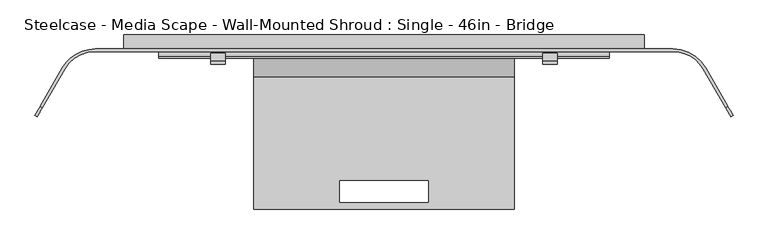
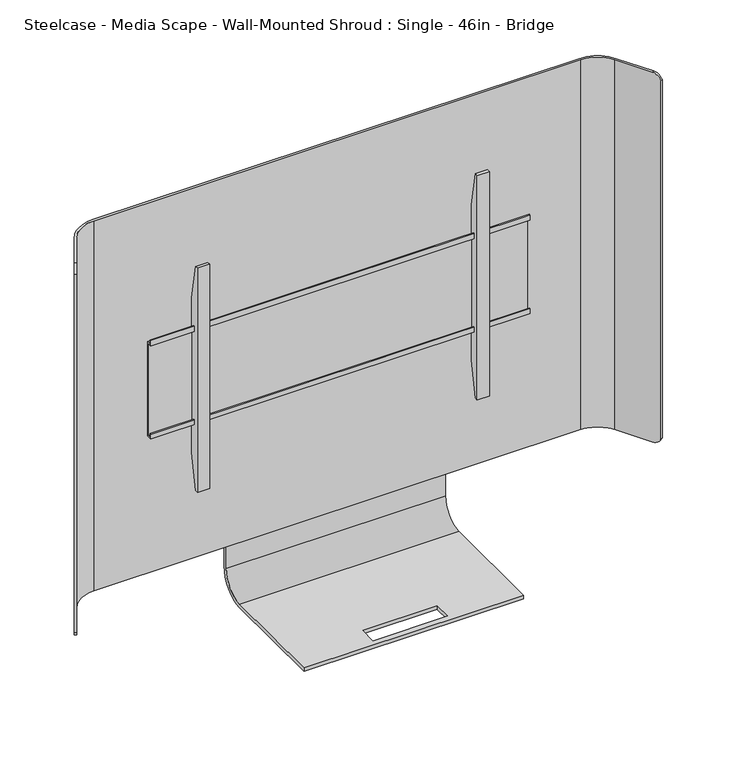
"""IFC4 building model written with IfcOpenShell, lengths in millimetres: furniture geometry, Steelcase - Media Scape - Wall-Mounted Shroud : Single - 46in - Bridge."""

from ifc_helpers import new_model, si_unit, frame, origin, place, context, project, spatial, polyline, circle_curve, outline, extrude, source, transform, mapped, element, save
from ifc_brep_helpers import plane_surface, cylinder_surface, revolved_surface, advanced_brep


def steelcase_media_scape_wall_mounted_shroud_single_46in_bridge_72783157(model_context):
    return source(origin(), model_context, "Body", "SolidModel", [
        advanced_brep(
        [(234.9499879, -25.4, 783.5646188), (234.9499879, -75.8697585, 733.0948603), (234.9499879, -314.3253876, 733.0948603), (234.9499879, -314.3253876, 725.1446188), (234.9499879, -75.8696132, 725.1446188), (234.9499879, -17.4496132, 783.5646188), (234.9499879, -17.4496132, 1158.5447876), (234.9499879, -25.4, 1158.5447876), (-234.9499879, -25.4, 783.5646188), (-234.9499879, -25.4, 1158.5447876), (-234.9499879, -17.4496132, 1158.5447876), (-234.9499879, -17.4496132, 783.5646188), (-234.9499879, -75.8696132, 725.1446188), (-234.9499879, -314.3253876, 725.1446188), (-234.9499879, -314.3253876, 733.0948603), (-234.9499879, -75.8697585, 733.0948603), (-79.502, -263.5253876, 733.0948603), (79.502, -263.5253876, 733.0948603), (79.502, -301.6253876, 733.0948603), (-79.502, -301.6253876, 733.0948603), (79.502, -263.5253876, 725.1446188), (-79.502, -263.5253876, 725.1446188), (-79.502, -301.6253876, 725.1446188), (79.502, -301.6253876, 725.1446188)],
        [
            (0, 1, circle_curve(frame((234.9499879, -75.8697585, 783.5646188), z_axis=(-1.0, 0.0, 0.0), x_axis=(0.0, 1.0, 0.0)), 50.4697585)),
            (1, 2),
            (2, 3),
            (3, 4),
            (4, 5, circle_curve(frame((234.9499879, -75.8696132, 783.5646188), z_axis=(1.0, 0.0, 0.0), x_axis=(0.0, 1.0, 0.0)), 58.42)),
            (5, 6),
            (6, 7),
            (7, 0),
            (8, 9),
            (9, 10),
            (10, 11),
            (11, 12, circle_curve(frame((-234.9499879, -75.8696132, 783.5646188), z_axis=(-1.0, 0.0, 0.0), x_axis=(0.0, 1.0, 0.0)), 58.42)),
            (12, 13),
            (13, 14),
            (14, 15),
            (15, 8, circle_curve(frame((-234.9499879, -75.8697585, 783.5646188), z_axis=(1.0, 0.0, 0.0), x_axis=(0.0, 1.0, 0.0)), 50.4697585)),
            (1, 15),
            (14, 2),
            (16, 17),
            (17, 18),
            (18, 19),
            (19, 16),
            (13, 3),
            (12, 4),
            (20, 21),
            (21, 22),
            (22, 23),
            (23, 20),
            (5, 11),
            (10, 6),
            (9, 7),
            (8, 0),
            (20, 17),
            (16, 21),
            (19, 22),
            (18, 23),
        ],
        [
            plane_surface(frame((234.9499879, -25.4, 783.5646188), z_axis=(1.0, 0.0, 0.0), x_axis=(0.0, 0.0, -1.0))),
            plane_surface(frame((-234.9499879, -25.4, 783.5646188), z_axis=(-1.0, 0.0, 0.0), x_axis=(0.0, 0.0, 1.0))),
            plane_surface(frame((234.9499879, -75.8697585, 733.0948603), z_axis=(0.0, 0.0, 1.0), x_axis=(-1.0, 0.0, 0.0))),
            plane_surface(frame((234.9499879, -314.3253876, 733.0948603), z_axis=(0.0, -1.0, 0.0), x_axis=(-1.0, 0.0, 0.0))),
            plane_surface(frame((234.9499879, -314.3253876, 725.1446188), z_axis=(0.0, 0.0, -1.0), x_axis=(-1.0, 0.0, 0.0))),
            plane_surface(frame((234.9499879, -17.4496132, 783.5646188), z_axis=(0.0, 1.0, 0.0), x_axis=(-1.0, 0.0, 0.0))),
            plane_surface(frame((234.9499879, -17.4496132, 1158.5447876), z_axis=(0.0, 0.0, 1.0), x_axis=(-1.0, 0.0, 0.0))),
            plane_surface(frame((234.9499879, -25.4, 1158.5447876), z_axis=(0.0, -1.0, 0.0), x_axis=(-1.0, 0.0, 0.0))),
            revolved_surface(polyline([(-234.9499879, -25.400000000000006, 783.5646188), (234.9499879, -25.400000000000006, 783.5646188)]), (-234.9499879, -75.8697585, 783.5646188), (-1.0, 0.0, 0.0)),
            cylinder_surface(frame((-234.9499879, -75.8696132, 783.5646188), z_axis=(1.0, 0.0, 0.0), x_axis=(0.0, 1.0, 0.0)), 58.42),
            plane_surface(frame((79.502, -263.5253876, 1824.7300588), z_axis=(0.0, -1.0, 0.0), x_axis=(0.0, 0.0, -1.0))),
            plane_surface(frame((-79.502, -263.5253876, 1824.7300588), z_axis=(1.0, 0.0, 0.0), x_axis=(0.0, 0.0, -1.0))),
            plane_surface(frame((-79.502, -301.6253876, 1824.7300588), z_axis=(0.0, 1.0, 0.0), x_axis=(0.0, 0.0, -1.0))),
            plane_surface(frame((79.502, -301.6253876, 1824.7300588), z_axis=(-1.0, 0.0, 0.0), x_axis=(0.0, 0.0, -1.0))),
        ],
        [
            (0, [[1, 2, 3, 4, 5, 6, 7, 8]]),
            (1, [[9, 10, 11, 12, 13, 14, 15, 16]]),
            (2, [[-2, 17, -15, 18], [19, 20, 21, 22]]),
            (3, [[-3, -18, -14, 23]]),
            (4, [[-4, -23, -13, 24], [25, 26, 27, 28]]),
            (5, [[-6, 29, -11, 30]]),
            (6, [[-7, -30, -10, 31]]),
            (7, [[-8, -31, -9, 32]]),
            (8, [[-1, -32, -16, -17]]),
            (9, [[-5, -24, -12, -29]]),
            (10, [[33, -19, 34, -25]]),
            (11, [[-34, -22, 35, -26]]),
            (12, [[-35, -21, 36, -27]]),
            (13, [[-33, -28, -36, -20]]),
        ],
    ),
        extrude(outline(polyline([(-42.4942785, 1358.3004726), (-42.4942785, 1370.3145649), (-39.8272175, 1370.3145649), (-39.8272175, 1360.967461), (-29.9720009, 1360.967461), (-29.9720009, 1146.6422438), (-42.3164551, 1146.6422438), (-42.3164551, 1157.5642515), (-39.649394, 1157.5642515), (-39.649394, 1149.307052), (-32.6531824, 1149.307052), (-32.6531824, 1358.3004726), (-42.4942785, 1358.3004726)])), frame((-406.4, 0.0, 0.0), z_axis=(1.0, 0.0, 0.0), x_axis=(0.0, 1.0, 0.0)), (0.0, 0.0, 1.0), 812.8),
        extrude(outline(polyline([(-32.6531824, 1429.2471148), (-32.6531824, 1077.4325607), (-46.5049349, 999.8046949), (-53.3399828, 999.8046949), (-53.3399828, 1507.8047192), (-46.5050076, 1507.8047192), (-32.6531824, 1429.2471148)])), frame((286.6392868, 0.0, 0.0), z_axis=(1.0, 0.0, 0.0), x_axis=(0.0, 1.0, 0.0)), (0.0, 0.0, 1.0), 26.1592872),
        extrude(outline(polyline([(-32.6531824, 1429.2471148), (-32.6531824, 1077.4325607), (-46.5049349, 999.8046949), (-53.3399828, 999.8046949), (-53.3399828, 1507.8047192), (-46.5050076, 1507.8047192), (-32.6531824, 1429.2471148)])), frame((-312.798574, 0.0, 0.0), z_axis=(1.0, 0.0, 0.0), x_axis=(0.0, 1.0, 0.0)), (0.0, 0.0, 1.0), 26.1592872),
        advanced_brep(
        [(-576.7086135, -61.722, 1674.114), (-521.716002, -29.9720009, 1674.114), (521.716, -29.9720009, 1674.114), (576.7086135, -61.722, 1674.114), (616.829586, -131.2135628, 1674.114), (620.7890541, -128.9275628, 1674.114), (580.6680817, -59.436, 1674.114), (521.716002, -25.4, 1674.114), (-521.716, -25.4, 1674.114), (-580.6680817, -59.436, 1674.114), (-620.7921659, -128.9329524, 1674.114), (-616.8326977, -131.2189524, 1674.114), (-580.6680817, -59.436, 835.914), (-521.716002, -25.4, 835.914), (521.716, -25.4, 835.914), (580.6680817, -59.436, 835.914), (620.8406629, -129.0169518, 835.914), (616.8811948, -131.3029518, 835.914), (576.7086135, -61.722, 835.914), (521.716002, -29.9720009, 835.914), (-521.716, -29.9720009, 835.914), (-576.7086135, -61.722, 835.914), (-616.8954014, -131.3275584, 835.914), (-620.8548695, -129.0415584, 835.914), (-630.3590632, -145.5033047, 849.5242766), (-630.3590632, -145.5033047, 1660.1227735), (-626.3995951, -147.7893047, 1660.1227735), (-626.3995951, -147.7893047, 849.5242766), (626.3770866, -147.7503189, 849.4756893), (626.3770866, -147.7503189, 1660.2433849), (630.3365547, -145.4643189, 1660.2433849), (630.3365547, -145.4643189, 849.4756893)],
        [
            (0, 1, circle_curve(frame((-521.716002, -93.4719991, 1674.114), z_axis=(0.0, 0.0, -1.0), x_axis=(0.0, 1.0, 0.0)), 63.4999981)),
            (1, 2),
            (2, 3, circle_curve(frame((521.716002, -93.4719991, 1674.114), z_axis=(0.0, 0.0, -1.0), x_axis=(0.0, 1.0, 0.0)), 63.4999981)),
            (3, 4),
            (4, 5),
            (5, 6),
            (6, 7, circle_curve(frame((521.7160004, -93.472, 1674.114), z_axis=(0.0, 0.0, 1.0), x_axis=(0.0, 1.0, 0.0)), 68.072)),
            (7, 8),
            (8, 9, circle_curve(frame((-521.7160004, -93.472, 1674.114), z_axis=(0.0, 0.0, 1.0), x_axis=(0.0, 1.0, 0.0)), 68.072)),
            (9, 10),
            (10, 11),
            (11, 0),
            (12, 13, circle_curve(frame((-521.7160004, -93.472, 835.914), z_axis=(0.0, 0.0, -1.0), x_axis=(0.0, 1.0, 0.0)), 68.072)),
            (13, 14),
            (14, 15, circle_curve(frame((521.7160004, -93.472, 835.914), z_axis=(0.0, 0.0, -1.0), x_axis=(0.0, 1.0, 0.0)), 68.072)),
            (15, 16),
            (16, 17),
            (17, 18),
            (18, 19, circle_curve(frame((521.716002, -93.4719991, 835.914), z_axis=(0.0, 0.0, 1.0), x_axis=(0.0, 1.0, 0.0)), 63.4999981)),
            (19, 20),
            (20, 21, circle_curve(frame((-521.716002, -93.4719991, 835.914), z_axis=(0.0, 0.0, 1.0), x_axis=(0.0, 1.0, 0.0)), 63.4999981)),
            (21, 22),
            (22, 23),
            (23, 12),
            (0, 21),
            (20, 1),
            (8, 13),
            (12, 9),
            (23, 24, circle_curve(frame((-620.8548695, -129.0415584, 855.9928872), z_axis=(-0.8660254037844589, 0.4999999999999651, 0.0), x_axis=(-0.4999999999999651, -0.8660254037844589, 0.0)), 20.0788872)),
            (24, 25),
            (25, 10, circle_curve(frame((-620.7921659, -128.9329524, 1654.0351128), z_axis=(-0.8660254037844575, 0.4999999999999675, 0.0), x_axis=(-0.4999999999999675, -0.8660254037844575, 0.0)), 20.0788872)),
            (26, 25),
            (24, 27),
            (27, 26),
            (11, 26, circle_curve(frame((-616.8326977, -131.2189524, 1654.0351128), z_axis=(0.8660254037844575, -0.4999999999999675, 0.0), x_axis=(-0.4999999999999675, -0.8660254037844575, 0.0)), 20.0788872)),
            (27, 22, circle_curve(frame((-616.8954014, -131.3275584, 855.9928872), z_axis=(0.8660254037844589, -0.4999999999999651, 0.0), x_axis=(-0.4999999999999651, -0.8660254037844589, 0.0)), 20.0788872)),
            (7, 14),
            (19, 2),
            (3, 18),
            (17, 28, circle_curve(frame((616.8811948, -131.3029518, 855.9928872), z_axis=(-0.8660254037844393, -0.49999999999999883, 0.0), x_axis=(0.49999999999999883, -0.8660254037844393, 0.0)), 20.0788872)),
            (28, 29),
            (29, 4, circle_curve(frame((616.829586, -131.2135628, 1654.0351128), z_axis=(-0.8660254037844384, -0.5000000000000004, 0.0), x_axis=(0.5000000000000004, -0.8660254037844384, 0.0)), 20.0788872)),
            (30, 29),
            (28, 31),
            (31, 30),
            (15, 6),
            (5, 30, circle_curve(frame((620.7890541, -128.9275628, 1654.0351128), z_axis=(0.8660254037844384, 0.5000000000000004, 0.0), x_axis=(0.5000000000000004, -0.8660254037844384, 0.0)), 20.0788872)),
            (31, 16, circle_curve(frame((620.8406629, -129.0169518, 855.9928872), z_axis=(0.8660254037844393, 0.49999999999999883, 0.0), x_axis=(0.49999999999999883, -0.8660254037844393, 0.0)), 20.0788872)),
        ],
        [
            plane_surface(frame((-521.716002, -29.9720009, 1674.114), z_axis=(0.0, 0.0, 1.0), x_axis=(1.0, 0.0, 0.0))),
            plane_surface(frame((-521.716002, -29.9720009, 835.914), z_axis=(0.0, 0.0, -1.0), x_axis=(-1.0, 0.0, 0.0))),
            revolved_surface(polyline([(-521.716002, -29.972001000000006, 835.914), (-521.716002, -29.972001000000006, 1674.114)]), (-521.716002, -93.4719991, 835.914), (0.0, 0.0, -1.0)),
            cylinder_surface(frame((-521.7160004, -93.472, 835.914), z_axis=(0.0, 0.0, 1.0), x_axis=(0.0, 1.0, 0.0)), 68.072),
            plane_surface(frame((-580.6680817, -59.436, 1674.114), z_axis=(-0.8660254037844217, 0.5000000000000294, 0.0), x_axis=(0.0, 0.0, -1.0))),
            plane_surface(frame((-630.3590632, -145.5033047, 1674.114), z_axis=(-0.5000000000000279, -0.8660254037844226, 0.0), x_axis=(0.0, 0.0, -1.0))),
            plane_surface(frame((-626.3995951, -147.7893047, 1674.114), z_axis=(0.8660254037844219, -0.500000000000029, 0.0), x_axis=(0.0, 0.0, -1.0))),
            plane_surface(frame((521.716, -25.4, 1674.114), z_axis=(0.0, 1.0, 0.0), x_axis=(0.0, 0.0, -1.0))),
            plane_surface(frame((-521.716, -29.9720009, 1674.114), z_axis=(0.0, -1.0, 0.0), x_axis=(0.0, 0.0, -1.0))),
            plane_surface(frame((576.7086135, -61.722, 1674.114), z_axis=(-0.8660254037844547, -0.4999999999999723, 0.0), x_axis=(0.0, 0.0, -1.0))),
            plane_surface(frame((626.3770866, -147.7503189, 1674.114), z_axis=(0.4999999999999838, -0.866025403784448, 0.0), x_axis=(0.0, 0.0, -1.0))),
            plane_surface(frame((630.3365547, -145.4643189, 1674.114), z_axis=(0.8660254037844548, 0.49999999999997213, 0.0), x_axis=(0.0, 0.0, -1.0))),
            cylinder_surface(frame((521.7160004, -93.472, 835.914), z_axis=(0.0, 0.0, 1.0), x_axis=(0.0, 1.0, 0.0)), 68.072),
            revolved_surface(polyline([(521.716002, -29.972001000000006, 835.914), (521.716002, -29.972001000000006, 1674.114)]), (521.716002, -93.4719991, 835.914), (0.0, 0.0, -1.0)),
            cylinder_surface(frame((-616.8326977, -131.2189524, 1654.0351128), z_axis=(0.8660254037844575, -0.4999999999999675, 0.0), x_axis=(-0.4999999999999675, -0.8660254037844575, 0.0)), 20.0788872),
            cylinder_surface(frame((-616.8954014, -131.3275584, 855.9928872), z_axis=(0.8660254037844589, -0.4999999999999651, 0.0), x_axis=(-0.4999999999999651, -0.8660254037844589, 0.0)), 20.0788872),
            cylinder_surface(frame((631.9364297, -122.4916225, 1654.0351128), z_axis=(0.8660254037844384, 0.5000000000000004, 0.0), x_axis=(0.5000000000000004, -0.8660254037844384, 0.0)), 20.0788872),
            cylinder_surface(frame((629.1289695, -124.2316958, 855.9928872), z_axis=(0.8660254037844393, 0.49999999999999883, 0.0), x_axis=(0.49999999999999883, -0.8660254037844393, 0.0)), 20.0788872),
        ],
        [
            (0, [[1, 2, 3, 4, 5, 6, 7, 8, 9, 10, 11, 12]]),
            (1, [[13, 14, 15, 16, 17, 18, 19, 20, 21, 22, 23, 24]]),
            (2, [[-1, 25, -21, 26]]),
            (3, [[-9, 27, -13, 28]]),
            (4, [[-28, -24, 29, 30, 31, -10]]),
            (5, [[32, -30, 33, 34]]),
            (6, [[-25, -12, 35, -34, 36, -22]]),
            (7, [[-8, 37, -14, -27]]),
            (8, [[-2, -26, -20, 38]]),
            (9, [[39, -18, 40, 41, 42, -4]]),
            (10, [[43, -41, 44, 45]]),
            (11, [[46, -6, 47, -45, 48, -16]]),
            (12, [[-7, -46, -15, -37]]),
            (13, [[-3, -38, -19, -39]]),
            (14, [[-11, -31, -32, -35]]),
            (15, [[-23, -36, -33, -29]]),
            (16, [[-5, -42, -43, -47]]),
            (17, [[-17, -48, -44, -40]]),
        ],
    ),
        extrude(outline(polyline([(912.1648167, 406.3999879), (912.1648167, 469.9), (1597.914, 469.9), (1597.914, -469.9), (912.1648167, -469.9), (912.1648167, -407.3933465), (1534.4139516, -407.3933465), (1534.4139516, 406.3999879), (912.1648167, 406.3999879)])), frame((0.0, -25.4, 0.0), z_axis=(0.0, 1.0, 0.0), x_axis=(0.0, 0.0, 1.0)), (0.0, 0.0, 1.0), 25.4),
    ])


if __name__ == "__main__":
    model = new_model("IFC4")
    model_context = context("Model", 3, world=origin())
    ifc_project = project(units=[si_unit("LENGTHUNIT", "METRE", prefix="MILLI")], contexts=[model_context])
    site = spatial("IfcSite", under=ifc_project)
    building = spatial("IfcBuilding", under=site)
    placement = place(None, origin())
    steelcase_media_scape_wall_mounted_shroud_single_46in_bridge_shape = steelcase_media_scape_wall_mounted_shroud_single_46in_bridge_72783157(model_context)
    element("IfcFurniture", 1, ObjectType="Steelcase - Media Scape - Wall-Mounted Shroud : Single - 46in - Bridge", at=placement, inside=building, context=model_context, shape_type="MappedRepresentation", body=[
        mapped(steelcase_media_scape_wall_mounted_shroud_single_46in_bridge_shape, transform((0.0, 0.0, 0.0), x_axis=(1.0, 0.0, 0.0), y_axis=(0.0, 1.0, 0.0), z_axis=(0.0, 0.0, 1.0))),
    ])
    save(model, "model.ifc")
